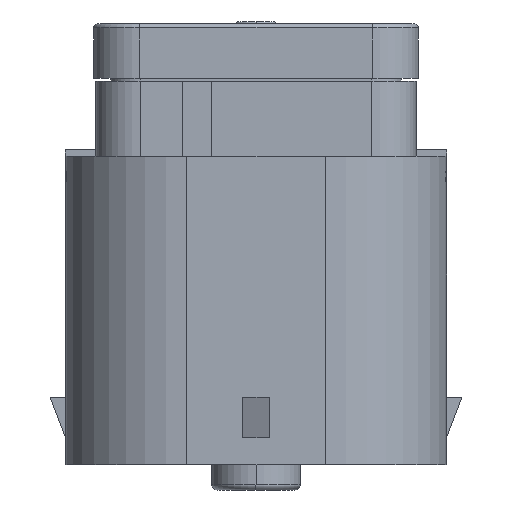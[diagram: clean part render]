
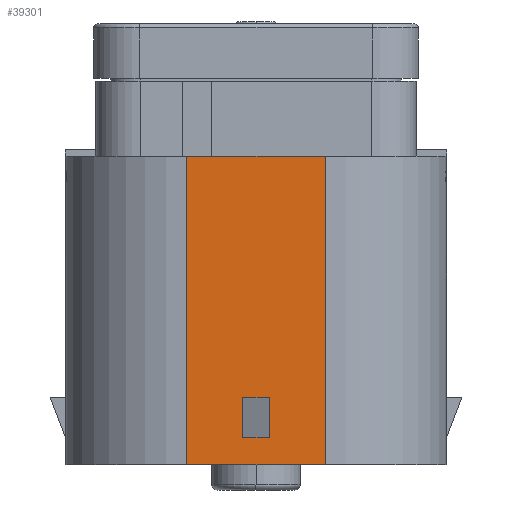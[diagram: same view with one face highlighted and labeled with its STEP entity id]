
A CAD part, left-side view. The second image highlights one B-rep face of the part: STEP entity #39301.
In plain terms, the highlighted planar face has unit normal (-1, 0, 0).
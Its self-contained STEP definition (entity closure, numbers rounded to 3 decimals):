
#9740=DIRECTION('',(0.,0.,-1.));
#9741=VECTOR('',#9740,29.21);
#9742=CARTESIAN_POINT('',(-51.994,6.541,-12.522));
#9743=LINE('',#9742,#9741);
#9845=DIRECTION('',(0.,0.,1.));
#9846=VECTOR('',#9845,3.81);
#9847=CARTESIAN_POINT('',(-51.994,1.27,-39.192));
#9848=LINE('',#9847,#9846);
#9849=DIRECTION('',(0.,0.,1.));
#9850=VECTOR('',#9849,3.81);
#9851=CARTESIAN_POINT('',(-51.994,-1.27,-39.192));
#9852=LINE('',#9851,#9850);
#9853=DIRECTION('',(0.,1.,0.));
#9854=VECTOR('',#9853,2.54);
#9855=CARTESIAN_POINT('',(-51.994,-1.27,-35.382));
#9856=LINE('',#9855,#9854);
#9857=DIRECTION('',(0.,0.,-1.));
#9858=VECTOR('',#9857,29.21);
#9859=CARTESIAN_POINT('',(-51.994,-6.541,-12.522));
#9860=LINE('',#9859,#9858);
#9861=DIRECTION('',(0.,-1.,0.));
#9862=VECTOR('',#9861,13.081);
#9863=CARTESIAN_POINT('',(-51.994,6.541,-12.522));
#9864=LINE('',#9863,#9862);
#9901=DIRECTION('',(0.,1.,0.));
#9902=VECTOR('',#9901,2.54);
#9903=CARTESIAN_POINT('',(-51.994,-1.27,-39.192));
#9904=LINE('',#9903,#9902);
#10001=DIRECTION('',(0.,1.,0.));
#10002=VECTOR('',#10001,13.081);
#10003=CARTESIAN_POINT('',(-51.994,-6.541,-41.732));
#10004=LINE('',#10003,#10002);
#20678=CARTESIAN_POINT('',(-51.994,6.541,-12.522));
#20679=CARTESIAN_POINT('',(-51.994,-6.541,-12.522));
#20680=VERTEX_POINT('',#20678);
#20681=VERTEX_POINT('',#20679);
#20774=CARTESIAN_POINT('',(-51.994,-1.27,-35.382));
#20775=CARTESIAN_POINT('',(-51.994,1.27,-35.382));
#20776=VERTEX_POINT('',#20774);
#20777=VERTEX_POINT('',#20775);
#20916=CARTESIAN_POINT('',(-51.994,-6.541,-41.732));
#20917=VERTEX_POINT('',#20916);
#20918=CARTESIAN_POINT('',(-51.994,6.541,-41.732));
#20919=VERTEX_POINT('',#20918);
#20934=CARTESIAN_POINT('',(-51.994,-1.27,-39.192));
#20935=CARTESIAN_POINT('',(-51.994,1.27,-39.192));
#20936=VERTEX_POINT('',#20934);
#20937=VERTEX_POINT('',#20935);
#39278=CARTESIAN_POINT('',(-51.994,6.541,-11.938));
#39279=DIRECTION('',(-1.,0.,0.));
#39280=DIRECTION('',(0.,-1.,0.));
#39281=AXIS2_PLACEMENT_3D('',#39278,#39279,#39280);
#39282=PLANE('',#39281);
#39284=ORIENTED_EDGE('',*,*,#39283,.T.);
#39286=ORIENTED_EDGE('',*,*,#39285,.T.);
#39287=ORIENTED_EDGE('',*,*,#39215,.F.);
#39288=ORIENTED_EDGE('',*,*,#38176,.T.);
#39289=EDGE_LOOP('',(#39284,#39286,#39287,#39288));
#39290=FACE_OUTER_BOUND('',#39289,.F.);
#39292=ORIENTED_EDGE('',*,*,#39291,.F.);
#39294=ORIENTED_EDGE('',*,*,#39293,.F.);
#39296=ORIENTED_EDGE('',*,*,#39295,.T.);
#39298=ORIENTED_EDGE('',*,*,#39297,.T.);
#39299=EDGE_LOOP('',(#39292,#39294,#39296,#39298));
#39300=FACE_BOUND('',#39299,.F.);
#39301=ADVANCED_FACE('',(#39290,#39300),#39282,.T.);
#38176=EDGE_CURVE('',#20680,#20681,#9864,.T.);
#39215=EDGE_CURVE('',#20680,#20919,#9743,.T.);
#39283=EDGE_CURVE('',#20681,#20917,#9860,.T.);
#39285=EDGE_CURVE('',#20917,#20919,#10004,.T.);
#39291=EDGE_CURVE('',#20937,#20777,#9848,.T.);
#39293=EDGE_CURVE('',#20936,#20937,#9904,.T.);
#39295=EDGE_CURVE('',#20936,#20776,#9852,.T.);
#39297=EDGE_CURVE('',#20776,#20777,#9856,.T.);
